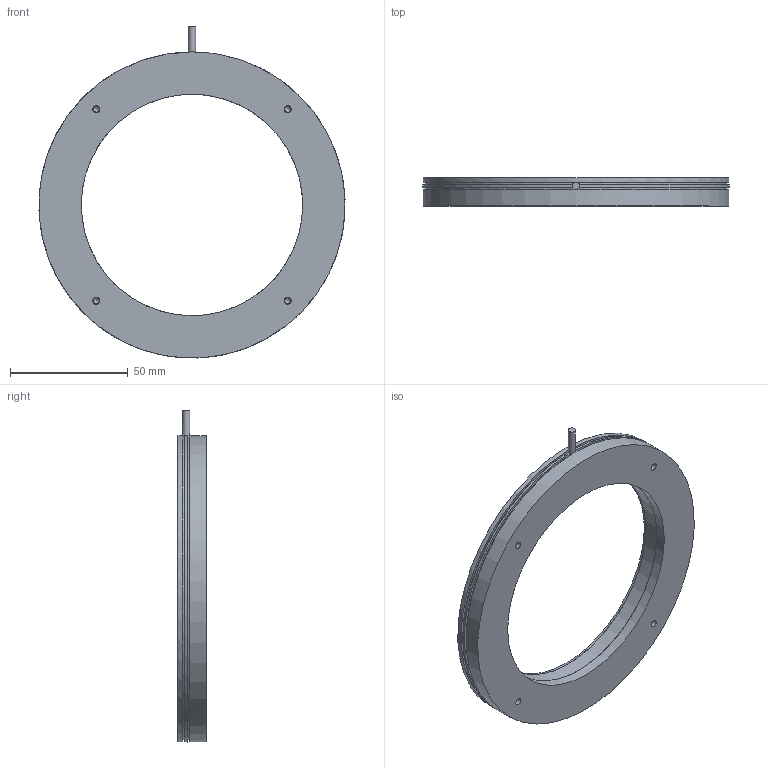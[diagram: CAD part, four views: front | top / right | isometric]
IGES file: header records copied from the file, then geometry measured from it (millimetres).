
Global section: file name: 153-00737_LR 130 xI-24-KFL5; native system: Autodesk Inventor 2018; preprocessor: unknown; author: ss; date: 20180725.093422; units: millimetre
Bounding box: 129.92 x 12 x 140.96 mm (x, y, z)
Volume: 74994.7 mm3; surface area: 34827.8 mm2
Topology: 2 solids, 2 shells, 50 faces, 130 edges, 90 vertices
Faces by surface type: bspline 50
